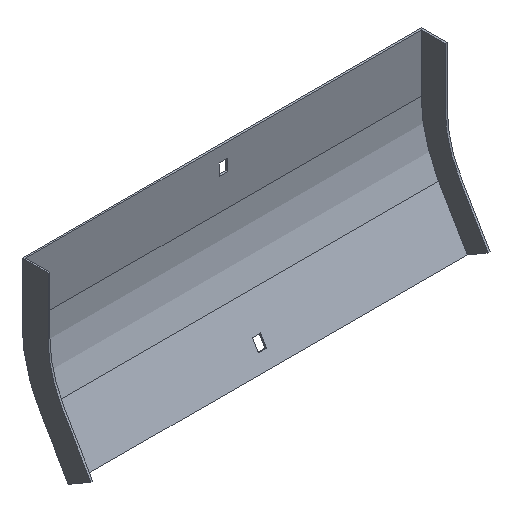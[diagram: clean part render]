
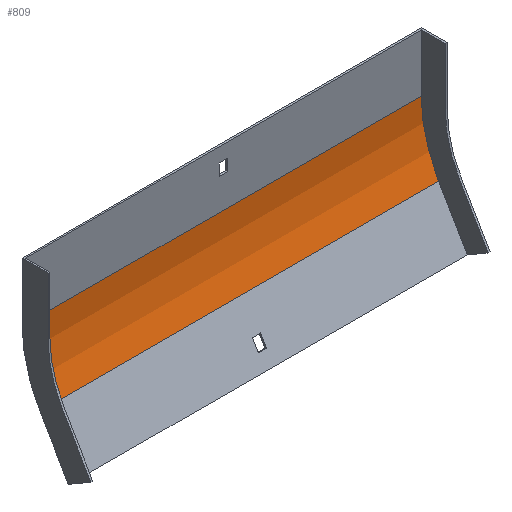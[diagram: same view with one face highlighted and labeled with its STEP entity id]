
A CAD part, isometric view. The second image highlights one B-rep face of the part: STEP entity #809.
In plain terms, the highlighted cylindrical face has radius 100 mm (diameter 200 mm), a partial arc.
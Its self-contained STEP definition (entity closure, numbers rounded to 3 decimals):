
#25 = DIRECTION ( 'NONE',  ( -1., 0., 0. ) ) ;
#62 = ORIENTED_EDGE ( 'NONE', *, *, #399, .T. ) ;
#70 = EDGE_LOOP ( 'NONE', ( #127, #735, #62, #798 ) ) ;
#89 = DIRECTION ( 'NONE',  ( -1., 0., 0. ) ) ;
#121 = AXIS2_PLACEMENT_3D ( 'NONE', #481, #627, #354 ) ;
#126 = EDGE_CURVE ( 'NONE', #554, #604, #577, .T. ) ;
#127 = ORIENTED_EDGE ( 'NONE', *, *, #259, .F. ) ;
#132 = DIRECTION ( 'NONE',  ( 0., 0., 1. ) ) ;
#137 = VERTEX_POINT ( 'NONE', #311 ) ;
#233 = CARTESIAN_POINT ( 'NONE',  ( 152., -1.5, -44. ) ) ;
#244 = CARTESIAN_POINT ( 'NONE',  ( 152., -101.5, -44. ) ) ;
#254 = DIRECTION ( 'NONE',  ( -1., 0., 0. ) ) ;
#257 = CARTESIAN_POINT ( 'NONE',  ( -152., -1.5, -44. ) ) ;
#259 = EDGE_CURVE ( 'NONE', #401, #604, #483, .T. ) ;
#287 = LINE ( 'NONE', #347, #396 ) ;
#311 = CARTESIAN_POINT ( 'NONE',  ( 152., -14.897, -94. ) ) ;
#320 = AXIS2_PLACEMENT_3D ( 'NONE', #451, #254, #132 ) ;
#347 = CARTESIAN_POINT ( 'NONE',  ( 153.5, -14.897, -94. ) ) ;
#354 = DIRECTION ( 'NONE',  ( 0., 0., 1. ) ) ;
#396 = VECTOR ( 'NONE', #89, 1000. ) ;
#399 = EDGE_CURVE ( 'NONE', #137, #554, #793, .T. ) ;
#401 = VERTEX_POINT ( 'NONE', #774 ) ;
#451 = CARTESIAN_POINT ( 'NONE',  ( 153.5, -101.5, -44. ) ) ;
#481 = CARTESIAN_POINT ( 'NONE',  ( -152., -101.5, -44. ) ) ;
#483 = CIRCLE ( 'NONE', #121, 100. ) ;
#554 = VERTEX_POINT ( 'NONE', #233 ) ;
#577 = LINE ( 'NONE', #703, #708 ) ;
#588 = FACE_OUTER_BOUND ( 'NONE', #70, .T. ) ;
#590 = EDGE_CURVE ( 'NONE', #137, #401, #287, .T. ) ;
#604 = VERTEX_POINT ( 'NONE', #257 ) ;
#627 = DIRECTION ( 'NONE',  ( 1., 0., 0. ) ) ;
#703 = CARTESIAN_POINT ( 'NONE',  ( 153.5, -1.5, -44. ) ) ;
#706 = DIRECTION ( 'NONE',  ( 0., 0., 1. ) ) ;
#708 = VECTOR ( 'NONE', #25, 1000. ) ;
#735 = ORIENTED_EDGE ( 'NONE', *, *, #590, .F. ) ;
#747 = AXIS2_PLACEMENT_3D ( 'NONE', #244, #848, #706 ) ;
#774 = CARTESIAN_POINT ( 'NONE',  ( -152., -14.897, -94. ) ) ;
#793 = CIRCLE ( 'NONE', #747, 100. ) ;
#795 = CYLINDRICAL_SURFACE ( 'NONE', #320, 100. ) ;
#798 = ORIENTED_EDGE ( 'NONE', *, *, #126, .T. ) ;
#809 = ADVANCED_FACE ( 'NONE', ( #588 ), #795, .F. ) ;
#848 = DIRECTION ( 'NONE',  ( 1., 0., 0. ) ) ;
